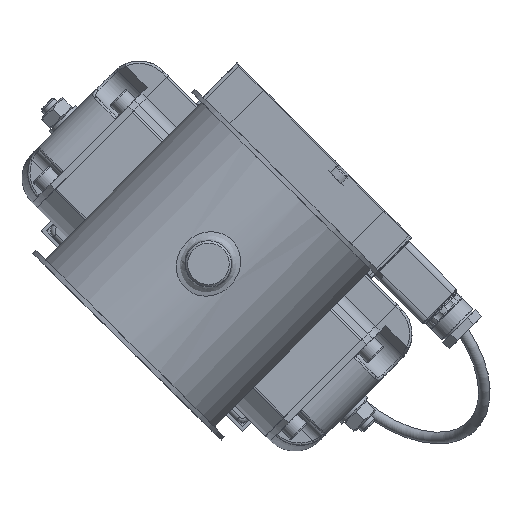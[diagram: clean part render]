
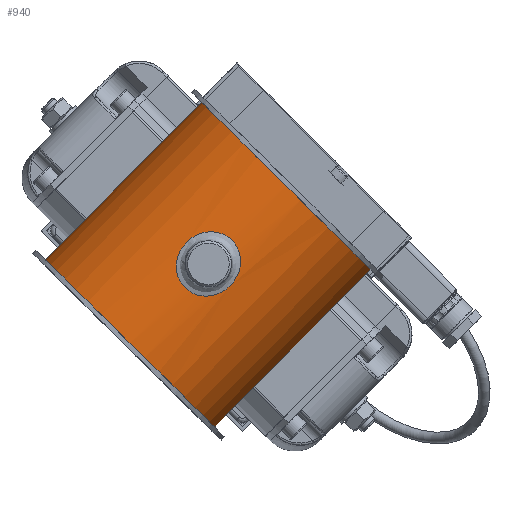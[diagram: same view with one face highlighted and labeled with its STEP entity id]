
A CAD part, top view. The second image highlights one B-rep face of the part: STEP entity #940.
In plain terms, the highlighted cylindrical face has radius 51.5 mm (diameter 103 mm), a full revolution.
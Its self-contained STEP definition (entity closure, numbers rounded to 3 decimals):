
#600=CARTESIAN_POINT('',(-50.0,12.339,41.763));
#601=VERTEX_POINT('',#600);
#602=CARTESIAN_POINT('',(-50.0,12.339,58.822));
#603=VERTEX_POINT('',#602);
#604=CARTESIAN_POINT('',(-50.0,12.339,41.763));
#605=DIRECTION('',(0.0,0.0,1.0));
#606=VECTOR('',#605,17.059);
#607=LINE('',#604,#606);
#608=EDGE_CURVE('',#601,#603,#607,.T.);
#625=CARTESIAN_POINT('',(-50.0,-12.339,58.822));
#626=VERTEX_POINT('',#625);
#627=CARTESIAN_POINT('',(-50.0,-12.339,41.763));
#628=VERTEX_POINT('',#627);
#629=CARTESIAN_POINT('',(-50.0,-12.339,58.822));
#630=DIRECTION('',(0.0,0.0,-1.0));
#631=VECTOR('',#630,17.059);
#632=LINE('',#629,#631);
#633=EDGE_CURVE('',#626,#628,#632,.T.);
#650=CARTESIAN_POINT('',(-50.0,-12.339,41.763));
#651=CARTESIAN_POINT('',(-50.129,-11.815,41.006));
#652=CARTESIAN_POINT('',(-50.265,-11.228,40.308));
#653=CARTESIAN_POINT('',(-50.675,-9.281,38.361));
#654=CARTESIAN_POINT('',(-50.97,-7.602,37.208));
#655=CARTESIAN_POINT('',(-51.281,-4.832,36.057));
#656=CARTESIAN_POINT('',(-51.364,-3.868,35.766));
#657=CARTESIAN_POINT('',(-51.473,-1.926,35.384));
#658=CARTESIAN_POINT('',(-51.5,-0.948,35.293));
#659=CARTESIAN_POINT('',(-51.5,0.948,35.293));
#660=CARTESIAN_POINT('',(-51.473,1.926,35.384));
#661=CARTESIAN_POINT('',(-51.364,3.868,35.766));
#662=CARTESIAN_POINT('',(-51.281,4.832,36.057));
#663=CARTESIAN_POINT('',(-50.97,7.602,37.208));
#664=CARTESIAN_POINT('',(-50.675,9.281,38.361));
#665=CARTESIAN_POINT('',(-50.265,11.228,40.308));
#666=CARTESIAN_POINT('',(-50.129,11.815,41.006));
#667=CARTESIAN_POINT('',(-50.0,12.339,41.763));
#668=B_SPLINE_CURVE_WITH_KNOTS('',3,(#650,#651,#652,#653,#654,#655,#656,#657,#658,#659,#660,#661,#662,#663,#664,#665,#666,#667),.UNSPECIFIED.,.F.,.U.,(4,2,2,2,2,2,2,2,4),(5.419,5.686,6.255,6.539,6.823,7.108,7.392,7.96,8.227),.UNSPECIFIED.);
#669=EDGE_CURVE('',#628,#601,#668,.T.);
#672=CARTESIAN_POINT('',(-50.0,12.339,58.822));
#673=CARTESIAN_POINT('',(-50.129,11.815,59.58));
#674=CARTESIAN_POINT('',(-50.265,11.228,60.278));
#675=CARTESIAN_POINT('',(-50.675,9.281,62.225));
#676=CARTESIAN_POINT('',(-50.97,7.602,63.378));
#677=CARTESIAN_POINT('',(-51.281,4.832,64.528));
#678=CARTESIAN_POINT('',(-51.364,3.868,64.819));
#679=CARTESIAN_POINT('',(-51.473,1.926,65.202));
#680=CARTESIAN_POINT('',(-51.5,0.948,65.293));
#681=CARTESIAN_POINT('',(-51.5,-0.948,65.293));
#682=CARTESIAN_POINT('',(-51.473,-1.926,65.202));
#683=CARTESIAN_POINT('',(-51.364,-3.868,64.819));
#684=CARTESIAN_POINT('',(-51.281,-4.832,64.528));
#685=CARTESIAN_POINT('',(-50.97,-7.602,63.378));
#686=CARTESIAN_POINT('',(-50.675,-9.281,62.225));
#687=CARTESIAN_POINT('',(-50.265,-11.228,60.278));
#688=CARTESIAN_POINT('',(-50.129,-11.815,59.58));
#689=CARTESIAN_POINT('',(-50.0,-12.339,58.822));
#690=B_SPLINE_CURVE_WITH_KNOTS('',3,(#672,#673,#674,#675,#676,#677,#678,#679,#680,#681,#682,#683,#684,#685,#686,#687,#688,#689),.UNSPECIFIED.,.F.,.U.,(4,2,2,2,2,2,2,2,4),(0.871,1.137,1.706,1.99,2.274,2.559,2.843,3.411,3.678),.UNSPECIFIED.);
#691=EDGE_CURVE('',#603,#626,#690,.T.);
#867=CARTESIAN_POINT('',(49.744,13.335,50.293));
#868=VERTEX_POINT('',#867);
#878=CARTESIAN_POINT('',(49.743,13.336,50.293));
#879=CARTESIAN_POINT('',(49.743,13.336,50.293));
#880=CARTESIAN_POINT('',(49.743,13.336,50.294));
#881=CARTESIAN_POINT('',(49.743,13.336,50.294));
#882=CARTESIAN_POINT('',(49.743,13.336,52.461));
#883=CARTESIAN_POINT('',(50.001,12.421,56.796));
#884=CARTESIAN_POINT('',(50.851,8.618,61.994));
#885=CARTESIAN_POINT('',(51.526,3.114,64.904));
#886=CARTESIAN_POINT('',(51.526,-3.077,64.919));
#887=CARTESIAN_POINT('',(50.858,-8.59,62.008));
#888=CARTESIAN_POINT('',(49.902,-12.841,56.264));
#889=CARTESIAN_POINT('',(49.614,-13.793,49.507));
#890=CARTESIAN_POINT('',(50.158,-11.792,42.487));
#891=CARTESIAN_POINT('',(50.965,-8.044,38.1));
#892=CARTESIAN_POINT('',(51.527,-2.405,35.676));
#893=CARTESIAN_POINT('',(51.526,3.082,35.672));
#894=CARTESIAN_POINT('',(50.853,8.603,38.583));
#895=CARTESIAN_POINT('',(50.004,12.412,43.757));
#896=CARTESIAN_POINT('',(49.743,13.336,48.127));
#897=CARTESIAN_POINT('',(49.743,13.336,50.293));
#898=B_SPLINE_CURVE_WITH_KNOTS('',3,(#878,#879,#880,#881,#882,#883,#884,#885,#886,#887,#888,#889,#890,#891,#892,#893,#894,#895,#896,#897),.UNSPECIFIED.,.T.,.U.,(4,3,1,1,1,1,1,1,1,1,1,1,1,1,1,4),(-6.044,-6.044,-5.612,-5.18,-4.748,-4.317,-3.885,-3.453,-2.878,-2.59,-2.015,-1.727,-1.295,-0.863,-0.432,0.),.UNSPECIFIED.);
#899=EDGE_CURVE('',#868,#868,#898,.T.);
#904=CARTESIAN_POINT('',(0.0,0.0,0.0));
#905=DIRECTION('',(0.0,0.0,1.0));
#906=DIRECTION('',(-1.0,0.0,0.0));
#907=AXIS2_PLACEMENT_3D('',#904,#905,#906);
#908=CYLINDRICAL_SURFACE('',#907,51.5);
#909=CARTESIAN_POINT('',(51.5,0.,98.0));
#910=VERTEX_POINT('',#909);
#911=CARTESIAN_POINT('',(0.0,0.0,98.0));
#912=DIRECTION('',(0.0,0.0,-1.0));
#913=DIRECTION('',(-1.0,0.0,0.0));
#914=AXIS2_PLACEMENT_3D('',#911,#912,#913);
#915=CIRCLE('',#914,51.5);
#916=EDGE_CURVE('',#910,#910,#915,.T.);
#917=ORIENTED_EDGE('',*,*,#916,.T.);
#918=EDGE_LOOP('',(#917));
#919=FACE_OUTER_BOUND('',#918,.T.);
#920=ORIENTED_EDGE('',*,*,#691,.T.);
#921=ORIENTED_EDGE('',*,*,#633,.T.);
#922=ORIENTED_EDGE('',*,*,#669,.T.);
#923=ORIENTED_EDGE('',*,*,#608,.T.);
#924=EDGE_LOOP('',(#920,#921,#922,#923));
#925=FACE_BOUND('',#924,.T.);
#926=CARTESIAN_POINT('',(-51.5,0.,2.0));
#927=VERTEX_POINT('',#926);
#928=CARTESIAN_POINT('',(0.0,0.0,2.0));
#929=DIRECTION('',(0.0,0.0,1.0));
#930=DIRECTION('',(-1.0,0.0,0.0));
#931=AXIS2_PLACEMENT_3D('',#928,#929,#930);
#932=CIRCLE('',#931,51.5);
#933=EDGE_CURVE('',#927,#927,#932,.T.);
#934=ORIENTED_EDGE('',*,*,#933,.T.);
#935=EDGE_LOOP('',(#934));
#936=FACE_BOUND('',#935,.T.);
#937=ORIENTED_EDGE('',*,*,#899,.F.);
#938=EDGE_LOOP('',(#937));
#939=FACE_BOUND('',#938,.T.);
#940=ADVANCED_FACE('',(#919,#925,#936,#939),#908,.T.);
